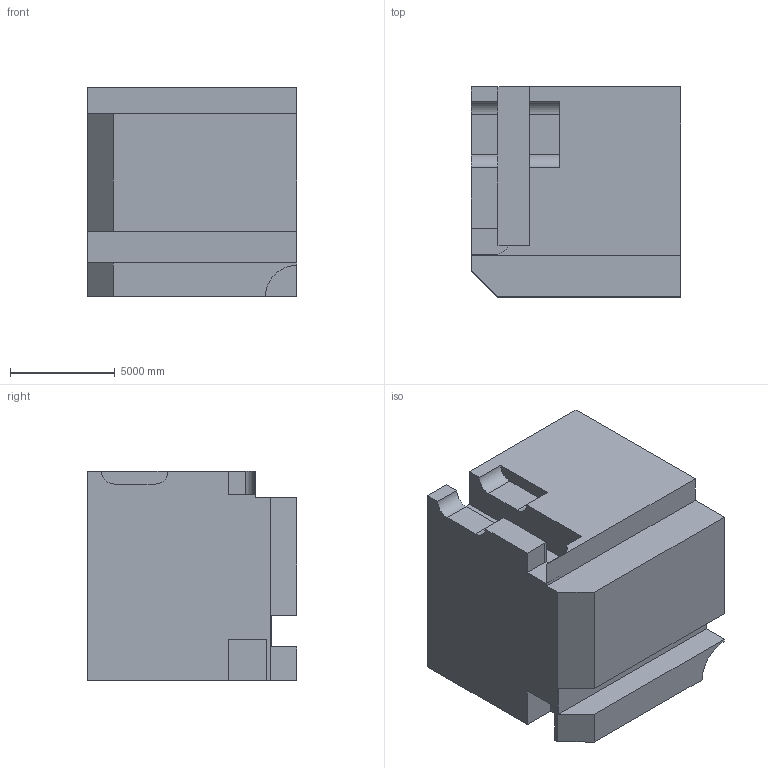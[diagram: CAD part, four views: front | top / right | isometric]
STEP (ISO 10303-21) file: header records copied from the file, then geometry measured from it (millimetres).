
FILE_DESCRIPTION (( 'STEP AP203' ), '1' );
FILE_NAME ('978.STEP', '2022-07-29T14:53:37', ( 'user' ), ( '' ), 'SwSTEP 2.0', 'SolidWorks 2021', '' );
FILE_SCHEMA (( 'CONFIG_CONTROL_DESIGN' ));
Length unit declared in the file: centimetre
Products named in the file (1): 978
Bounding box: 10000 x 10000 x 10000 mm (x, y, z)
Volume: 879550453566.6 mm3; surface area: 700748240.5 mm2
Topology: 1 solids, 1 shells, 47 faces, 129 edges, 86 vertices
Faces by surface type: plane 34, cylinder 13
Entity records: 1566 total; most frequent: CARTESIAN_POINT 263, ORIENTED_EDGE 258, DIRECTION 251, EDGE_CURVE 129, VECTOR 103, LINE 103, VERTEX_POINT 86, AXIS2_PLACEMENT_3D 74
